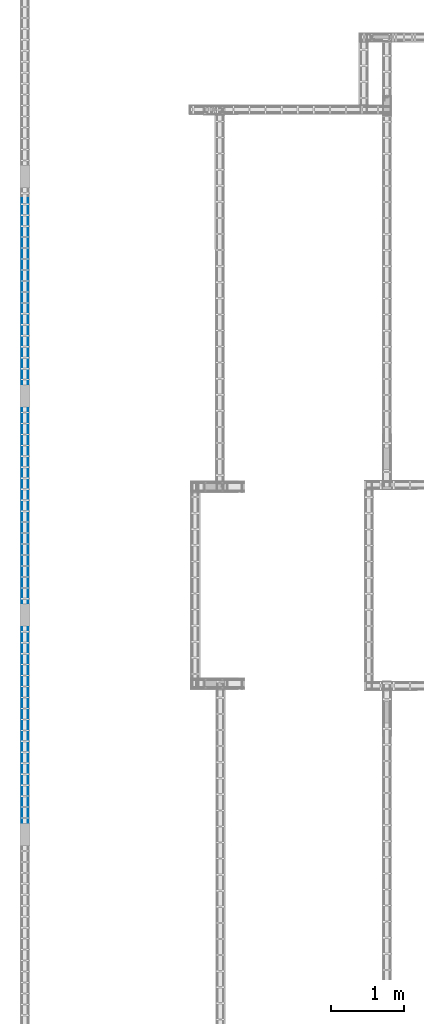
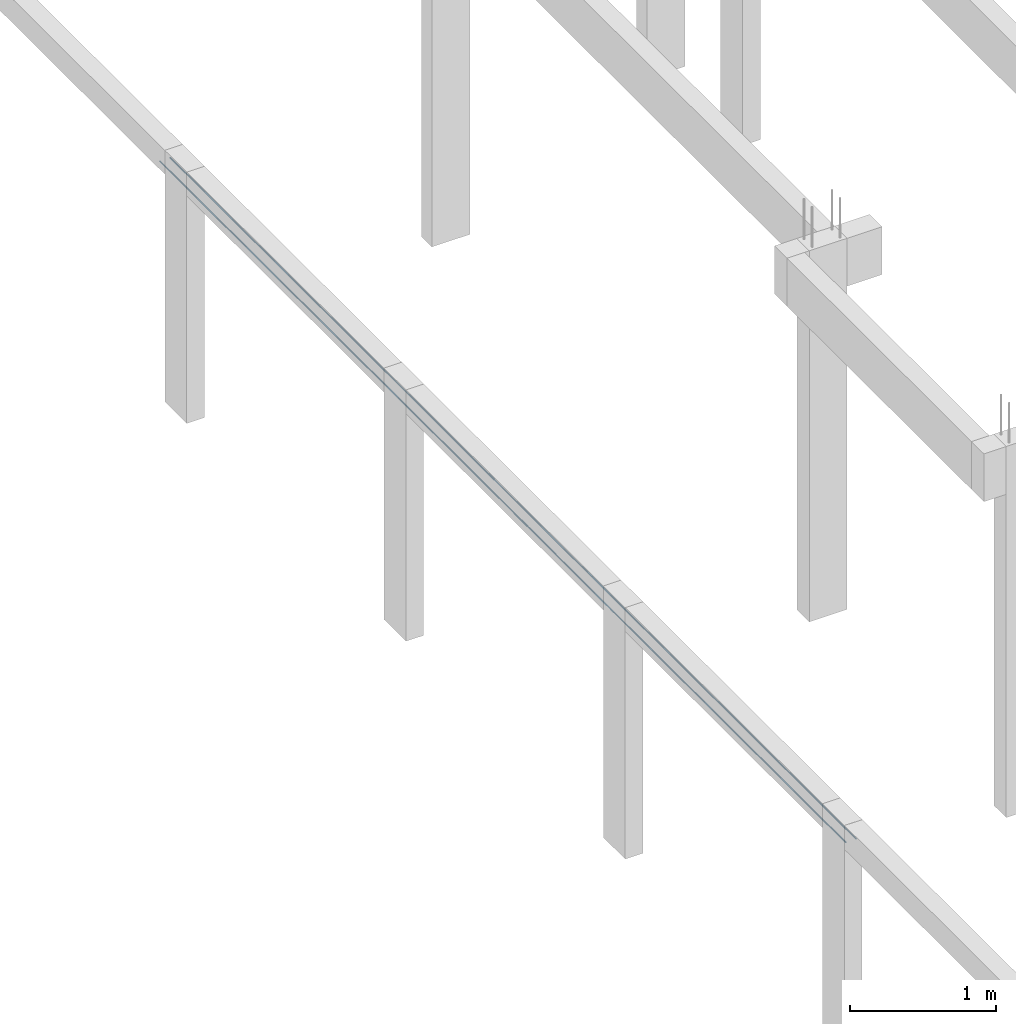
# One storey, part 120 of 236: 2 reinforcing bars.
"""IFC4 building model written with IfcOpenShell, lengths in centimetres."""

from ifc_helpers import new_model, entity, si_unit, derived_unit, frame, origin_with_axes, place, context, project, spatial, element, save


model = new_model("IFC4")

# Units and contexts
model_context = context("Model", 3, precision=1e-05, world=origin_with_axes(), identifier="Body")
ifc_project = project(units=[si_unit("LENGTHUNIT", "METRE", prefix="CENTI"), si_unit("VOLUMEUNIT", "CUBIC_METRE"), si_unit("AREAUNIT", "SQUARE_METRE"), si_unit("POWERUNIT", "WATT"), si_unit("LUMINOUSFLUXUNIT", "LUMEN"), si_unit("ELECTRICCURRENTUNIT", "AMPERE"), si_unit("PRESSUREUNIT", "PASCAL", prefix="KILO"), si_unit("MASSUNIT", "GRAM", prefix="KILO"), si_unit("PLANEANGLEUNIT", "RADIAN"), derived_unit("VOLUMETRICFLOWRATEUNIT", [(si_unit("LENGTHUNIT", "METRE"), 3), (si_unit("TIMEUNIT", "SECOND"), -1)])], contexts=[model_context])

# Site, building, storey
site_placement = place(None, frame((-4000.0, 0.0, 0.0), z_axis=(0.0, 0.0, 1.0), x_axis=(1.0, 0.0, 0.0)))
site = spatial("IfcSite", under=ifc_project, at=site_placement, Name="PADRÃO")
building_placement = place(site_placement, frame((0.0, 0.0, -14.0)))
building = spatial("IfcBuilding", under=site, at=building_placement, Name="CRECHE PRÉ-ESCOLA TIPO 2")
placement_1 = place(building_placement, origin_with_axes())
placement_2 = place(placement_1, frame((0.0, 0.0, 30.0), z_axis=(0.0, 0.0, 1.0), x_axis=(1.0, 0.0, 0.0)))
storey_placement = place(placement_2, frame((0.0, 0.0, 310.0), z_axis=(0.0, 0.0, 1.0), x_axis=(1.0, 0.0, 0.0)))
storey = spatial("IfcBuildingStorey", under=building, at=storey_placement, Name="TERREO", CompositionType="ELEMENT", Elevation=326.0)

# Reinforcing bars
for number, where, z_axis, x_axis, name in (
    (1, (12.6, 3452.0, -116.7), (0.0, 0.0, 1.0), (1.0, 0.0, 0.0), "V324 - Longitudinal inferior"),
    (2, (4.4, 3452.0, -116.7), (0.0, 0.0, 1.0), (1.0, 0.0, 0.0), "V324 - Longitudinal inferior"),
):
    element("IfcReinforcingBar", number, at=place(storey_placement, frame(where, z_axis=z_axis, x_axis=x_axis)), inside=storey, Name=name, BarLength=0.0, CrossSectionArea=5.0265482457e-05, NominalDiameter=0.8, PredefinedType="MAIN", context=model_context, shape_type="AdvancedSweptSolid", body=[
        entity("IfcSweptDiskSolid", entity("IfcCompositeCurve", [entity("IfcCompositeCurveSegment", "CONTINUOUS", True, entity("IfcPolyline", [entity("IfcCartesianPoint", [0.0, -469.185840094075, -0.4]), entity("IfcCartesianPoint", [0.0, 469.185840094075, -0.4])]))], False), 0.4),
    ])

save(model, "model.ifc")
